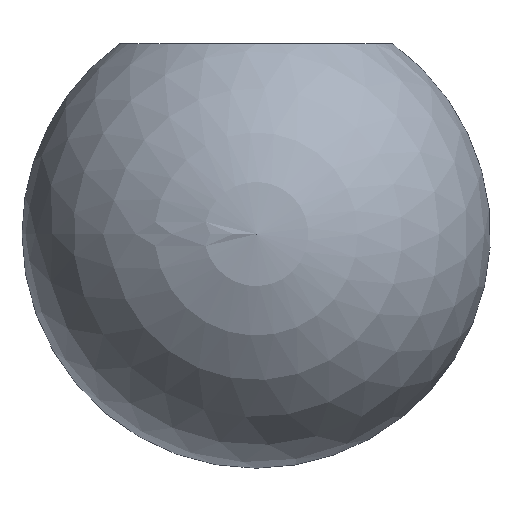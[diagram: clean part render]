
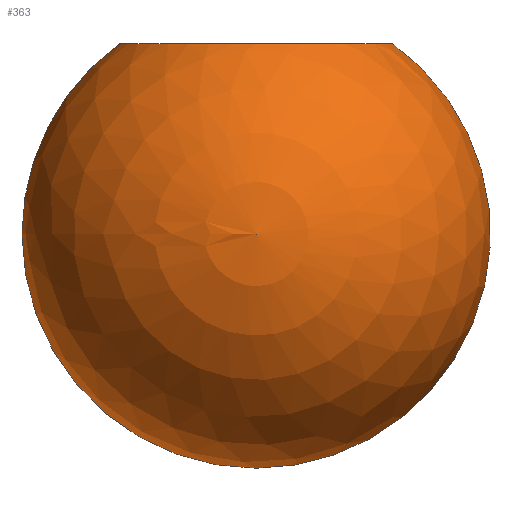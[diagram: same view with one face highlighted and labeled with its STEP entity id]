
A CAD part, left-side view. The second image highlights one B-rep face of the part: STEP entity #363.
In plain terms, the highlighted spherical face has radius 16 mm.
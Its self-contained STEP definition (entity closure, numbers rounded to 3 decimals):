
#7 = VERTEX_POINT ( 'NONE', #537 ) ;
#9 = EDGE_CURVE ( 'NONE', #269, #179, #535, .T. ) ;
#40 = DIRECTION ( 'NONE',  ( -1., 0., 0. ) ) ;
#85 = DIRECTION ( 'NONE',  ( 1., 0., 0. ) ) ;
#91 = CARTESIAN_POINT ( 'NONE',  ( 0., 0., -29. ) ) ;
#102 = CIRCLE ( 'NONE', #191, 9.327 ) ;
#106 = AXIS2_PLACEMENT_3D ( 'NONE', #489, #124, #262 ) ;
#124 = DIRECTION ( 'NONE',  ( -1., 0., 0. ) ) ;
#179 = VERTEX_POINT ( 'NONE', #477 ) ;
#191 = AXIS2_PLACEMENT_3D ( 'NONE', #400, #387, #225 ) ;
#210 = EDGE_LOOP ( 'NONE', ( #383, #549, #563 ) ) ;
#225 = DIRECTION ( 'NONE',  ( 1., 0., 0. ) ) ;
#230 = CIRCLE ( 'NONE', #299, 16. ) ;
#260 = FACE_OUTER_BOUND ( 'NONE', #210, .T. ) ;
#262 = DIRECTION ( 'NONE',  ( 0., -1., 0. ) ) ;
#266 = DIRECTION ( 'NONE',  ( 0., 1., 0. ) ) ;
#268 = DIRECTION ( 'NONE',  ( 0., 0., -1. ) ) ;
#269 = VERTEX_POINT ( 'NONE', #91 ) ;
#299 = AXIS2_PLACEMENT_3D ( 'NONE', #304, #85, #268 ) ;
#304 = CARTESIAN_POINT ( 'NONE',  ( 0., 0., -13. ) ) ;
#363 = ADVANCED_FACE ( 'NONE', ( #260 ), #433, .T. ) ;
#383 = ORIENTED_EDGE ( 'NONE', *, *, #550, .F. ) ;
#387 = DIRECTION ( 'NONE',  ( 0., 0., 1. ) ) ;
#400 = CARTESIAN_POINT ( 'NONE',  ( 0., 0., 0. ) ) ;
#404 = AXIS2_PLACEMENT_3D ( 'NONE', #525, #40, #266 ) ;
#433 = SPHERICAL_SURFACE ( 'NONE', #404, 16. ) ;
#452 = EDGE_CURVE ( 'NONE', #7, #179, #102, .T. ) ;
#477 = CARTESIAN_POINT ( 'NONE',  ( 0., -9.327, 0. ) ) ;
#489 = CARTESIAN_POINT ( 'NONE',  ( 0., 0., -13. ) ) ;
#525 = CARTESIAN_POINT ( 'NONE',  ( 0., 0., -13. ) ) ;
#535 = CIRCLE ( 'NONE', #106, 16. ) ;
#537 = CARTESIAN_POINT ( 'NONE',  ( 0., 9.327, 0. ) ) ;
#549 = ORIENTED_EDGE ( 'NONE', *, *, #9, .T. ) ;
#550 = EDGE_CURVE ( 'NONE', #269, #7, #230, .T. ) ;
#563 = ORIENTED_EDGE ( 'NONE', *, *, #452, .F. ) ;
